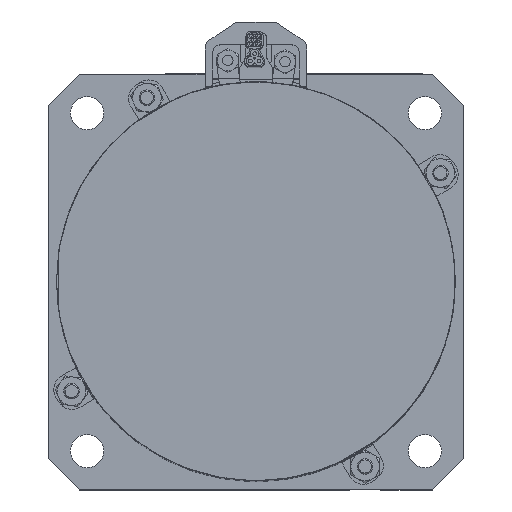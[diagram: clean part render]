
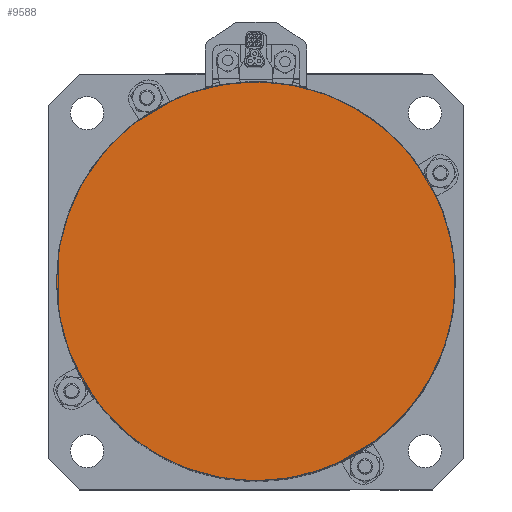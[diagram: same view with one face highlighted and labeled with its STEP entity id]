
A CAD part, top view. The second image highlights one B-rep face of the part: STEP entity #9588.
In plain terms, the highlighted planar face has unit normal (0, 0, 1).
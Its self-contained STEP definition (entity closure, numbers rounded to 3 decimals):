
#8826 = ORIENTED_EDGE ( 'NONE', *, *, #23273, .F. ) ;
#9588 = ADVANCED_FACE ( 'NONE', ( #36231 ), #28217, .T. ) ;
#10310 = CARTESIAN_POINT ( 'NONE',  ( -55.549, -10.71, 147. ) ) ;
#10919 = DIRECTION ( 'NONE',  ( 0., 0., -1. ) ) ;
#11147 = VERTEX_POINT ( 'NONE', #28975 ) ;
#12128 = ORIENTED_EDGE ( 'NONE', *, *, #17250, .F. ) ;
#13799 = DIRECTION ( 'NONE',  ( -1., 0., 0. ) ) ;
#13971 = DIRECTION ( 'NONE',  ( -1., 0., 0. ) ) ;
#15222 = CIRCLE ( 'NONE', #34563, 38.42 ) ;
#16128 = VERTEX_POINT ( 'NONE', #10310 ) ;
#16886 = DIRECTION ( 'NONE',  ( 0., 0., 1. ) ) ;
#17250 = EDGE_CURVE ( 'NONE', #11147, #16128, #19743, .T. ) ;
#17731 = DIRECTION ( 'NONE',  ( 1., 0., 0. ) ) ;
#19216 = DIRECTION ( 'NONE',  ( 0., 0., -1. ) ) ;
#19288 = EDGE_LOOP ( 'NONE', ( #8826, #12128 ) ) ;
#19743 = CIRCLE ( 'NONE', #20563, 38.42 ) ;
#20563 = AXIS2_PLACEMENT_3D ( 'NONE', #22414, #19216, #13971 ) ;
#22414 = CARTESIAN_POINT ( 'NONE',  ( -17.129, -10.71, 147. ) ) ;
#23001 = AXIS2_PLACEMENT_3D ( 'NONE', #25254, #16886, #17731 ) ;
#23273 = EDGE_CURVE ( 'NONE', #16128, #11147, #15222, .T. ) ;
#25254 = CARTESIAN_POINT ( 'NONE',  ( -17.129, -10.71, 147. ) ) ;
#27675 = CARTESIAN_POINT ( 'NONE',  ( -17.129, -10.71, 147. ) ) ;
#28217 = PLANE ( 'NONE',  #23001 ) ;
#28975 = CARTESIAN_POINT ( 'NONE',  ( 21.291, -10.71, 147. ) ) ;
#34563 = AXIS2_PLACEMENT_3D ( 'NONE', #27675, #10919, #13799 ) ;
#36231 = FACE_OUTER_BOUND ( 'NONE', #19288, .T. ) ;
